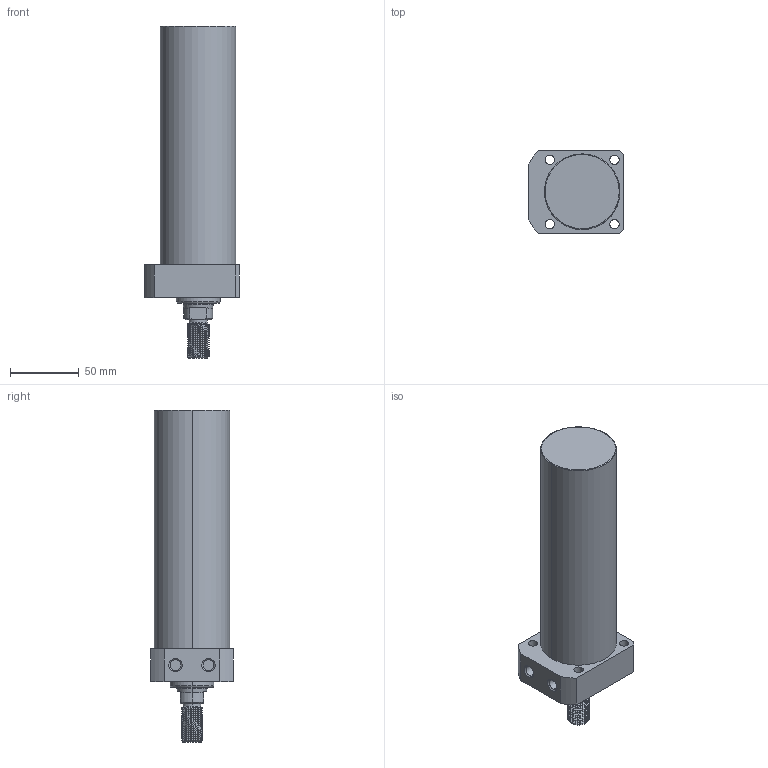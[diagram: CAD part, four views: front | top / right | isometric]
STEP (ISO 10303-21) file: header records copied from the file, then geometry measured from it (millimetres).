
FILE_DESCRIPTION (( 'STEP AP214' ), '1' );
FILE_NAME ('CLLR-055CT-145.STEP', '2020-01-10T01:02:03', ( 'Windows' ), ( 'Microsoft' ), 'SwSTEP 2.0', 'SolidWorks 2015', '' );
FILE_SCHEMA (( 'AUTOMOTIVE_DESIGN' ));
Length unit declared in the file: millimetre
Products named in the file (1): CLLR-055CT-145
Bounding box: 69 x 60 x 242 mm (x, y, z)
Volume: 518061.3 mm3; surface area: 49933.8 mm2
Topology: 1 solids, 1 shells, 102 faces, 262 edges, 170 vertices
Faces by surface type: cylinder 62, plane 20, cone 16, torus 2, bspline 2
Entity records: 5086 total; most frequent: CARTESIAN_POINT 2673, ORIENTED_EDGE 524, DIRECTION 461, EDGE_CURVE 262, AXIS2_PLACEMENT_3D 181, VERTEX_POINT 170, EDGE_LOOP 118, ADVANCED_FACE 102
